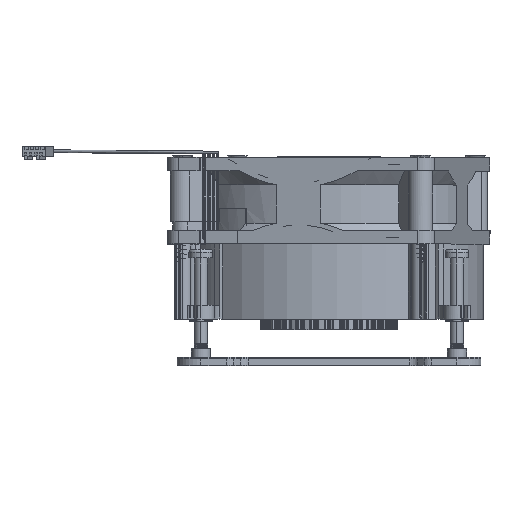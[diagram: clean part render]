
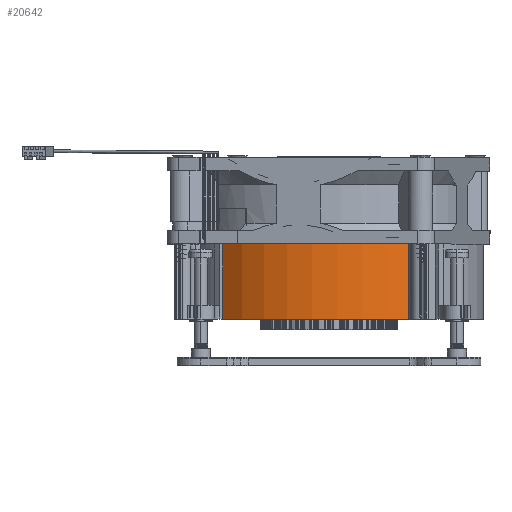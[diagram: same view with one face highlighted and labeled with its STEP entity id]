
A CAD part, top view. The second image highlights one B-rep face of the part: STEP entity #20642.
In plain terms, the highlighted cylindrical face has radius 45.1 mm (diameter 90.2 mm), a partial arc.
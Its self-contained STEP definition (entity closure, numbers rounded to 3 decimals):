
#397=CARTESIAN_POINT('',(1463.353,685.972,0.));
#398=DIRECTION('',(0.,1.,0.));
#399=DIRECTION('',(-0.691,0.,0.723));
#400=AXIS2_PLACEMENT_3D('',#397,#398,#399);
#7363=CARTESIAN_POINT('',(1463.353,707.972,0.));
#7364=DIRECTION('',(0.,1.,0.));
#7365=DIRECTION('',(-0.691,0.,0.723));
#7366=AXIS2_PLACEMENT_3D('',#7363,#7364,#7365);
#7707=DIRECTION('',(0.,1.,0.));
#7708=VECTOR('',#7707,22.);
#7709=CARTESIAN_POINT('',(1432.178,685.972,32.59));
#7710=LINE('',#7709,#7708);
#8527=DIRECTION('',(0.,1.,0.));
#8528=VECTOR('',#8527,22.);
#8529=CARTESIAN_POINT('',(1486.581,685.972,38.659));
#8530=LINE('',#8529,#8528);
#10086=CARTESIAN_POINT('',(1432.178,685.972,32.59));
#10087=CARTESIAN_POINT('',(1432.178,707.972,32.59));
#10088=VERTEX_POINT('',#10086);
#10089=VERTEX_POINT('',#10087);
#10986=CARTESIAN_POINT('',(1486.581,685.972,38.659));
#10987=CARTESIAN_POINT('',(1486.581,707.972,38.659));
#10988=VERTEX_POINT('',#10986);
#10989=VERTEX_POINT('',#10987);
#20628=CARTESIAN_POINT('',(1463.353,707.972,0.));
#20629=DIRECTION('',(0.,1.,0.));
#20630=DIRECTION('',(-1.,0.,0.));
#20631=AXIS2_PLACEMENT_3D('',#20628,#20629,#20630);
#20632=CYLINDRICAL_SURFACE('',#20631,45.1);
#20634=ORIENTED_EDGE('',*,*,#20633,.T.);
#20636=ORIENTED_EDGE('',*,*,#20635,.T.);
#20638=ORIENTED_EDGE('',*,*,#20637,.F.);
#20639=ORIENTED_EDGE('',*,*,#11291,.F.);
#20640=EDGE_LOOP('',(#20634,#20636,#20638,#20639));
#20641=FACE_OUTER_BOUND('',#20640,.F.);
#20642=ADVANCED_FACE('',(#20641),#20632,.T.);
#401=CIRCLE('',#400,45.1);
#7367=CIRCLE('',#7366,45.1);
#11291=EDGE_CURVE('',#10088,#10988,#401,.T.);
#20633=EDGE_CURVE('',#10088,#10089,#7710,.T.);
#20635=EDGE_CURVE('',#10089,#10989,#7367,.T.);
#20637=EDGE_CURVE('',#10988,#10989,#8530,.T.);
